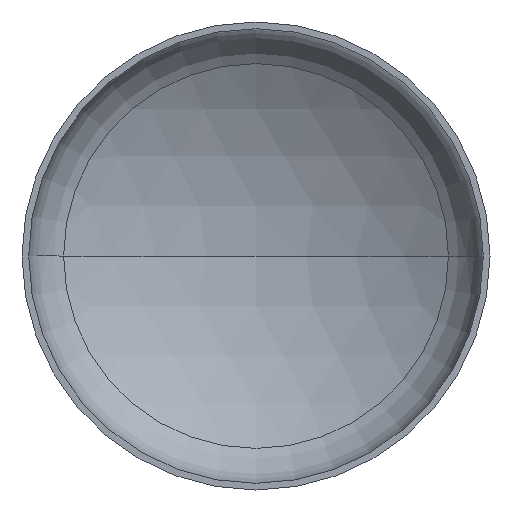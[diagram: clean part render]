
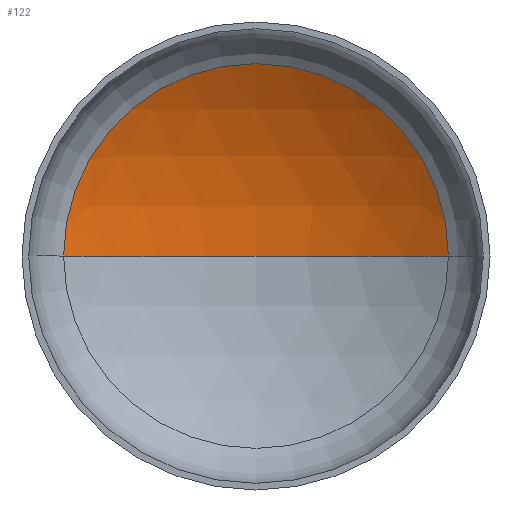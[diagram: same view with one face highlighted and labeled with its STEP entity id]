
A CAD part, front view. The second image highlights one B-rep face of the part: STEP entity #122.
In plain terms, the highlighted spherical face has radius 2400 mm.
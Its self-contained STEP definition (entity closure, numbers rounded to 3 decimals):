
#4 = DIRECTION ( 'NONE',  ( 1., 0., 0. ) ) ;
#7 = DIRECTION ( 'NONE',  ( 0., -1., 0. ) ) ;
#12 = CARTESIAN_POINT ( 'NONE',  ( 0., 524.606, 0. ) ) ;
#21 = EDGE_LOOP ( 'NONE', ( #177, #131, #118 ) ) ;
#41 = AXIS2_PLACEMENT_3D ( 'NONE', #213, #378, #254 ) ;
#42 = AXIS2_PLACEMENT_3D ( 'NONE', #148, #331, #170 ) ;
#45 = AXIS2_PLACEMENT_3D ( 'NONE', #12, #7, #4 ) ;
#47 = SPHERICAL_SURFACE ( 'NONE', #49, 2400. ) ;
#49 = AXIS2_PLACEMENT_3D ( 'NONE', #302, #220, #219 ) ;
#62 = VERTEX_POINT ( 'NONE', #370 ) ;
#75 = FACE_OUTER_BOUND ( 'NONE', #21, .T. ) ;
#80 = VERTEX_POINT ( 'NONE', #240 ) ;
#118 = ORIENTED_EDGE ( 'NONE', *, *, #136, .T. ) ;
#122 = ADVANCED_FACE ( 'NONE', ( #75 ), #47, .F. ) ;
#131 = ORIENTED_EDGE ( 'NONE', *, *, #156, .T. ) ;
#136 = EDGE_CURVE ( 'NONE', #149, #80, #184, .T. ) ;
#148 = CARTESIAN_POINT ( 'NONE',  ( 0., -1534.209, 0. ) ) ;
#149 = VERTEX_POINT ( 'NONE', #195 ) ;
#156 = EDGE_CURVE ( 'NONE', #62, #149, #243, .T. ) ;
#168 = EDGE_CURVE ( 'NONE', #62, #80, #368, .T. ) ;
#170 = DIRECTION ( 'NONE',  ( -1., 0., 0. ) ) ;
#177 = ORIENTED_EDGE ( 'NONE', *, *, #168, .F. ) ;
#184 = CIRCLE ( 'NONE', #45, 1233.402 ) ;
#195 = CARTESIAN_POINT ( 'NONE',  ( 1233.402, 524.606, 0. ) ) ;
#213 = CARTESIAN_POINT ( 'NONE',  ( 0., -1534.209, 0. ) ) ;
#219 = DIRECTION ( 'NONE',  ( -1., 0., 0. ) ) ;
#220 = DIRECTION ( 'NONE',  ( 0., 0., -1. ) ) ;
#240 = CARTESIAN_POINT ( 'NONE',  ( -1233.402, 524.606, 0. ) ) ;
#243 = CIRCLE ( 'NONE', #42, 2400. ) ;
#254 = DIRECTION ( 'NONE',  ( 1., 0., 0. ) ) ;
#302 = CARTESIAN_POINT ( 'NONE',  ( 0., -1534.209, 0. ) ) ;
#331 = DIRECTION ( 'NONE',  ( 0., 0., -1. ) ) ;
#368 = CIRCLE ( 'NONE', #41, 2400. ) ;
#370 = CARTESIAN_POINT ( 'NONE',  ( 0., 865.791, 0. ) ) ;
#378 = DIRECTION ( 'NONE',  ( 0., 0., 1. ) ) ;
